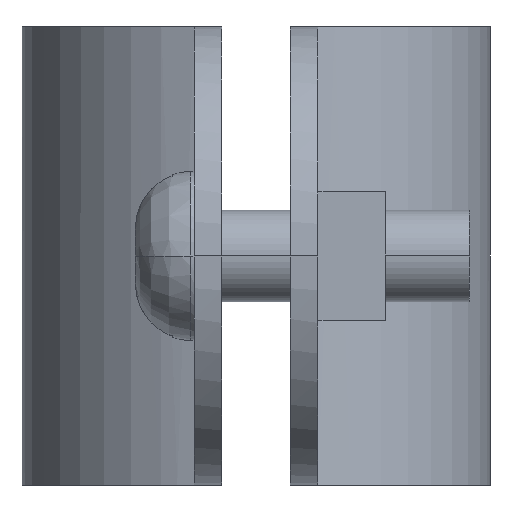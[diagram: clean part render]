
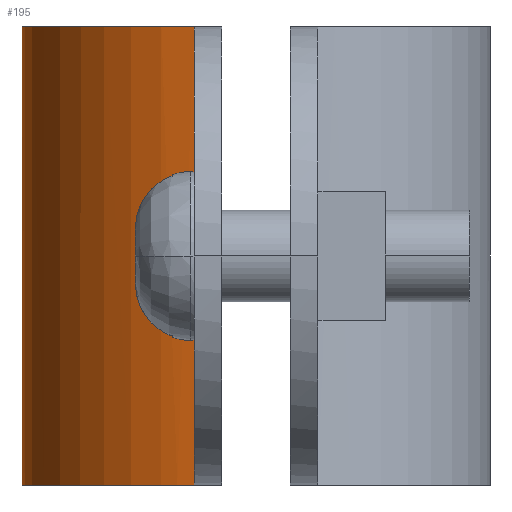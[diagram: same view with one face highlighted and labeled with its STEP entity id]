
A CAD part, left-side view. The second image highlights one B-rep face of the part: STEP entity #195.
In plain terms, the highlighted free-form (B-spline) face has degree [3, 1] with [4, 2] control points.
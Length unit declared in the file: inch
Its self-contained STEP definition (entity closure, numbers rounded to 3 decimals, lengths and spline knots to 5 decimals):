
#195=ADVANCED_FACE('',(#422),#423,.T.);
#422=FACE_OUTER_BOUND('',#883,.T.);
#423=B_SPLINE_SURFACE_WITH_KNOTS('',3,1,((#884,#885),(#886,#887),(#888,#889),(#890,#891)),.UNSPECIFIED.,.F.,.F.,.F.,(4,4),(2,2),(0.0,1.0),(0.0,1.25),.UNSPECIFIED.);
#883=EDGE_LOOP('',(#1510,#1511,#1512,#1513));
#884=CARTESIAN_POINT('',(1.14488,1.52753,0.0));
#885=CARTESIAN_POINT('',(1.14488,1.52753,1.25));
#886=CARTESIAN_POINT('',(0.85764,1.52753,0.0));
#887=CARTESIAN_POINT('',(0.85764,1.52753,1.25));
#888=CARTESIAN_POINT('',(0.60582,1.33553,0.0));
#889=CARTESIAN_POINT('',(0.60582,1.33553,1.25));
#890=CARTESIAN_POINT('',(0.52978,1.05853,0.0));
#891=CARTESIAN_POINT('',(0.52978,1.05853,1.25));
#1510=ORIENTED_EDGE('',*,*,#2097,.T.);
#1511=ORIENTED_EDGE('',*,*,#2048,.T.);
#1512=ORIENTED_EDGE('',*,*,#2098,.T.);
#1513=ORIENTED_EDGE('',*,*,#2099,.F.);
#2048=EDGE_CURVE('',#2337,#2344,#2346,.T.);
#2097=EDGE_CURVE('',#2427,#2337,#2428,.T.);
#2098=EDGE_CURVE('',#2344,#2429,#2430,.T.);
#2099=EDGE_CURVE('',#2427,#2429,#2431,.T.);
#2337=VERTEX_POINT('',#2807);
#2344=VERTEX_POINT('',#2821);
#2346=LINE('',#2824,#2825);
#2427=VERTEX_POINT('',#2984);
#2428=B_SPLINE_CURVE_WITH_KNOTS('',3,(#2985,#2986,#2987,#2988),.UNSPECIFIED.,.F.,.F.,(4,4),(0.0,1.0),.UNSPECIFIED.);
#2429=VERTEX_POINT('',#2989);
#2430=B_SPLINE_CURVE_WITH_KNOTS('',3,(#2990,#2991,#2992,#2993),.UNSPECIFIED.,.F.,.F.,(4,4),(-1.0,-0.0),.UNSPECIFIED.);
#2431=LINE('',#2994,#2995);
#2807=CARTESIAN_POINT('',(0.52978,1.05853,0.00009));
#2821=CARTESIAN_POINT('',(0.52978,1.05853,1.24989));
#2824=CARTESIAN_POINT('',(0.52978,1.05853,0.0));
#2825=VECTOR('',#3541,1.0);
#2984=CARTESIAN_POINT('',(1.14488,1.52753,0.00009));
#2985=CARTESIAN_POINT('',(1.14488,1.52753,0.00009));
#2986=CARTESIAN_POINT('',(0.85764,1.52753,0.00009));
#2987=CARTESIAN_POINT('',(0.60582,1.33553,0.00009));
#2988=CARTESIAN_POINT('',(0.52978,1.05853,0.00009));
#2989=CARTESIAN_POINT('',(1.14488,1.52753,1.24989));
#2990=CARTESIAN_POINT('',(0.52978,1.05853,1.24989));
#2991=CARTESIAN_POINT('',(0.60582,1.33553,1.24989));
#2992=CARTESIAN_POINT('',(0.85764,1.52753,1.24989));
#2993=CARTESIAN_POINT('',(1.14488,1.52753,1.24989));
#2994=CARTESIAN_POINT('',(1.14488,1.52753,0.0));
#2995=VECTOR('',#3570,1.0);
#3541=DIRECTION('',(0.0,0.0,1.0));
#3570=DIRECTION('',(0.0,0.0,1.0));
